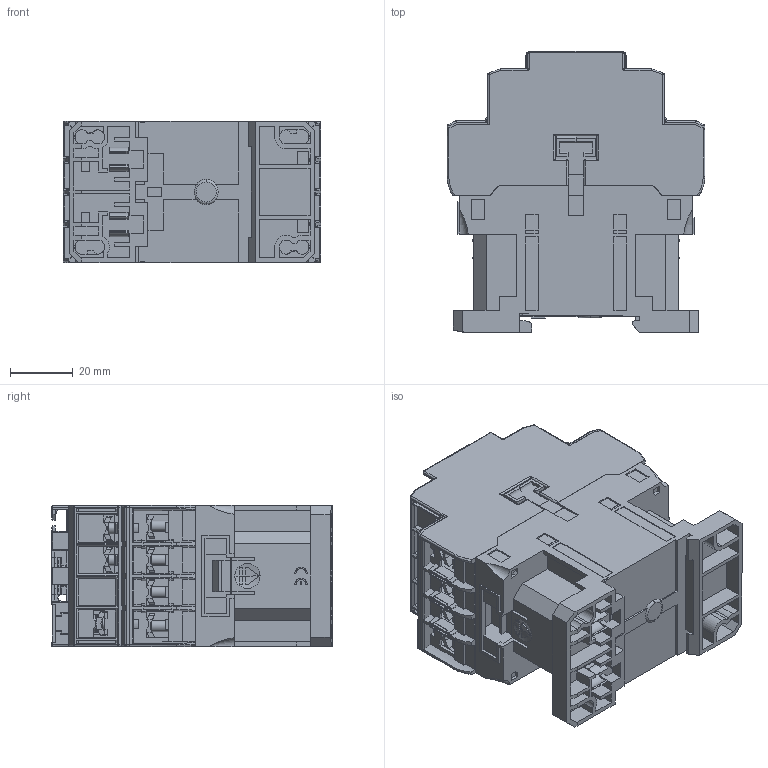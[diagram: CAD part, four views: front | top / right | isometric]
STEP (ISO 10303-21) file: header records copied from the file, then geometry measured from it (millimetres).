
FILE_DESCRIPTION (( 'STEP AP203' ), '1' );
FILE_NAME ('CWB9...18 4P.STEP', '2020-11-26T18:39:13', ( 'Usuário do Windows' ), ( 'WEG Equipamentos Elétricos' ), 'SwSTEP 2.0', 'SolidWorks 2018', '' );
FILE_SCHEMA (( 'CONFIG_CONTROL_DESIGN' ));
Products named in the file (2): CWB9...18 4P
Bounding box: 81.8 x 89.25 x 44.8 mm (x, y, z)
Volume: 234645 mm3; surface area: 79055.3 mm2
Topology: 42 solids, 51 shells, 5636 faces, 15134 edges, 9593 vertices
Faces by surface type: plane 3225, cylinder 1353, bspline 416, torus 336, cone 282, sphere 24
Entity records: 183025 total; most frequent: CARTESIAN_POINT 48549, ORIENTED_EDGE 30172, DIRECTION 25372, EDGE_CURVE 15086, VERTEX_POINT 9593, LINE 9424, VECTOR 9424, AXIS2_PLACEMENT_3D 7974
